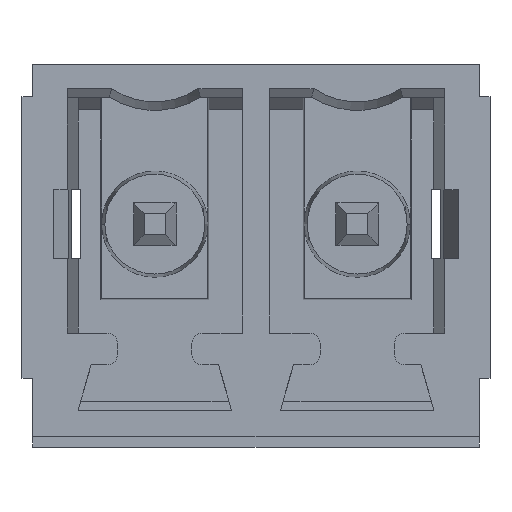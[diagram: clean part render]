
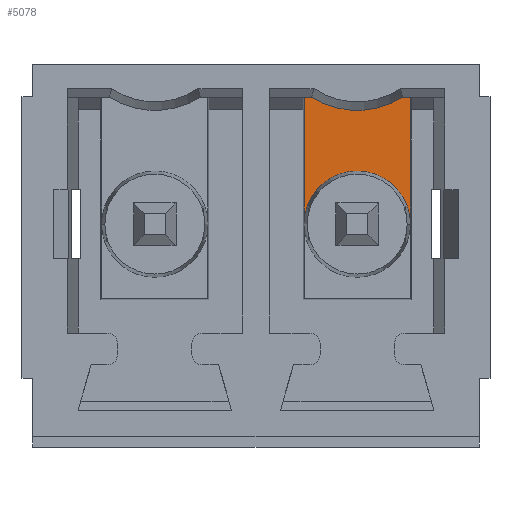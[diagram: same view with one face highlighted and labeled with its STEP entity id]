
A CAD part, front view. The second image highlights one B-rep face of the part: STEP entity #5078.
In plain terms, the highlighted planar face has unit normal (0, -1, 0).
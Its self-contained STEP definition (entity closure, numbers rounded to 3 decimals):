
#2628 = PLANE('',#2629);
#2629 = AXIS2_PLACEMENT_3D('',#2630,#2631,#2632);
#2630 = CARTESIAN_POINT('',(6.97,0.,6.39));
#2631 = DIRECTION('',(0.,0.,-1.));
#2632 = DIRECTION('',(1.,0.,0.));
#3371 = PLANE('',#3372);
#3372 = AXIS2_PLACEMENT_3D('',#3373,#3374,#3375);
#3373 = CARTESIAN_POINT('',(5.1,7.45,4.485));
#3374 = DIRECTION('',(-1.,-0.018,0.));
#3375 = DIRECTION('',(0.018,-1.,0.));
#3427 = PLANE('',#3428);
#3428 = AXIS2_PLACEMENT_3D('',#3429,#3430,#3431);
#3429 = CARTESIAN_POINT('',(7.12,7.45,4.485));
#3430 = DIRECTION('',(1.,-0.018,0.));
#3431 = DIRECTION('',(-0.018,-1.,0.));
#4870 = CONICAL_SURFACE('',#4871,0.97,0.05);
#4871 = AXIS2_PLACEMENT_3D('',#4872,#4873,#4874);
#4872 = CARTESIAN_POINT('',(6.11,6.3,4.));
#4873 = DIRECTION('',(0.,1.,0.));
#4874 = DIRECTION('',(0.,0.,-1.));
#4965 = VERTEX_POINT('',#4966);
#4966 = CARTESIAN_POINT('',(7.11,6.9,4.));
#4987 = EDGE_CURVE('',#4965,#4988,#4990,.T.);
#4988 = VERTEX_POINT('',#4989);
#4989 = CARTESIAN_POINT('',(5.11,6.9,4.));
#4990 = SURFACE_CURVE('',#4991,(#4996,#5003),.PCURVE_S1.);
#4991 = CIRCLE('',#4992,1.);
#4992 = AXIS2_PLACEMENT_3D('',#4993,#4994,#4995);
#4993 = CARTESIAN_POINT('',(6.11,6.9,4.));
#4994 = DIRECTION('',(0.,-1.,0.));
#4995 = DIRECTION('',(1.,0.,0.));
#4996 = PCURVE('',#4870,#4997);
#4997 = DEFINITIONAL_REPRESENTATION('',(#4998),#5002);
#4998 = LINE('',#4999,#5000);
#4999 = CARTESIAN_POINT('',(4.712,0.6));
#5000 = VECTOR('',#5001,1.);
#5001 = DIRECTION('',(-1.,0.));
#5002 = ( GEOMETRIC_REPRESENTATION_CONTEXT(2) 
PARAMETRIC_REPRESENTATION_CONTEXT() REPRESENTATION_CONTEXT('2D SPACE',''
  ) );
#5003 = PCURVE('',#5004,#5009);
#5004 = PLANE('',#5005);
#5005 = AXIS2_PLACEMENT_3D('',#5006,#5007,#5008);
#5006 = CARTESIAN_POINT('',(6.11,6.9,0.));
#5007 = DIRECTION('',(0.,1.,0.));
#5008 = DIRECTION('',(1.,0.,0.));
#5009 = DEFINITIONAL_REPRESENTATION('',(#5010),#5018);
#5010 = ( BOUNDED_CURVE() B_SPLINE_CURVE(2,(#5011,#5012,#5013,#5014,
#5015,#5016,#5017),.UNSPECIFIED.,.T.,.F.) B_SPLINE_CURVE_WITH_KNOTS((1,2
    ,2,2,2,1),(-2.094,0.,2.094,4.189,
6.283,8.378),.UNSPECIFIED.) CURVE() 
GEOMETRIC_REPRESENTATION_ITEM() RATIONAL_B_SPLINE_CURVE((1.,0.5,1.,0.5,
1.,0.5,1.)) REPRESENTATION_ITEM('') );
#5011 = CARTESIAN_POINT('',(1.,-4.));
#5012 = CARTESIAN_POINT('',(1.,-5.732));
#5013 = CARTESIAN_POINT('',(-0.5,-4.866));
#5014 = CARTESIAN_POINT('',(-2.,-4.));
#5015 = CARTESIAN_POINT('',(-0.5,-3.134));
#5016 = CARTESIAN_POINT('',(1.,-2.268));
#5017 = CARTESIAN_POINT('',(1.,-4.));
#5018 = ( GEOMETRIC_REPRESENTATION_CONTEXT(2) 
PARAMETRIC_REPRESENTATION_CONTEXT() REPRESENTATION_CONTEXT('2D SPACE',''
  ) );
#5078 = ADVANCED_FACE('',(#5079),#5004,.F.);
#5079 = FACE_BOUND('',#5080,.F.);
#5080 = EDGE_LOOP('',(#5081,#5104,#5105,#5128,#5156,#5185));
#5081 = ORIENTED_EDGE('',*,*,#5082,.T.);
#5082 = EDGE_CURVE('',#5083,#4965,#5085,.T.);
#5083 = VERTEX_POINT('',#5084);
#5084 = CARTESIAN_POINT('',(7.11,6.9,6.39));
#5085 = SURFACE_CURVE('',#5086,(#5090,#5097),.PCURVE_S1.);
#5086 = LINE('',#5087,#5088);
#5087 = CARTESIAN_POINT('',(7.11,6.9,6.39));
#5088 = VECTOR('',#5089,1.);
#5089 = DIRECTION('',(0.,0.,-1.));
#5090 = PCURVE('',#5004,#5091);
#5091 = DEFINITIONAL_REPRESENTATION('',(#5092),#5096);
#5092 = LINE('',#5093,#5094);
#5093 = CARTESIAN_POINT('',(1.,-6.39));
#5094 = VECTOR('',#5095,1.);
#5095 = DIRECTION('',(0.,1.));
#5096 = ( GEOMETRIC_REPRESENTATION_CONTEXT(2) 
PARAMETRIC_REPRESENTATION_CONTEXT() REPRESENTATION_CONTEXT('2D SPACE',''
  ) );
#5097 = PCURVE('',#3427,#5098);
#5098 = DEFINITIONAL_REPRESENTATION('',(#5099),#5103);
#5099 = LINE('',#5100,#5101);
#5100 = CARTESIAN_POINT('',(0.55,-1.905));
#5101 = VECTOR('',#5102,1.);
#5102 = DIRECTION('',(0.,1.));
#5103 = ( GEOMETRIC_REPRESENTATION_CONTEXT(2) 
PARAMETRIC_REPRESENTATION_CONTEXT() REPRESENTATION_CONTEXT('2D SPACE',''
  ) );
#5104 = ORIENTED_EDGE('',*,*,#4987,.T.);
#5105 = ORIENTED_EDGE('',*,*,#5106,.T.);
#5106 = EDGE_CURVE('',#4988,#5107,#5109,.T.);
#5107 = VERTEX_POINT('',#5108);
#5108 = CARTESIAN_POINT('',(5.11,6.9,6.39));
#5109 = SURFACE_CURVE('',#5110,(#5114,#5121),.PCURVE_S1.);
#5110 = LINE('',#5111,#5112);
#5111 = CARTESIAN_POINT('',(5.11,6.9,4.
    ));
#5112 = VECTOR('',#5113,1.);
#5113 = DIRECTION('',(0.,0.,1.));
#5114 = PCURVE('',#5004,#5115);
#5115 = DEFINITIONAL_REPRESENTATION('',(#5116),#5120);
#5116 = LINE('',#5117,#5118);
#5117 = CARTESIAN_POINT('',(-1.,-4.));
#5118 = VECTOR('',#5119,1.);
#5119 = DIRECTION('',(0.,-1.));
#5120 = ( GEOMETRIC_REPRESENTATION_CONTEXT(2) 
PARAMETRIC_REPRESENTATION_CONTEXT() REPRESENTATION_CONTEXT('2D SPACE',''
  ) );
#5121 = PCURVE('',#3371,#5122);
#5122 = DEFINITIONAL_REPRESENTATION('',(#5123),#5127);
#5123 = LINE('',#5124,#5125);
#5124 = CARTESIAN_POINT('',(0.55,-0.485));
#5125 = VECTOR('',#5126,1.);
#5126 = DIRECTION('',(0.,1.));
#5127 = ( GEOMETRIC_REPRESENTATION_CONTEXT(2) 
PARAMETRIC_REPRESENTATION_CONTEXT() REPRESENTATION_CONTEXT('2D SPACE',''
  ) );
#5128 = ORIENTED_EDGE('',*,*,#5129,.F.);
#5129 = EDGE_CURVE('',#5130,#5107,#5132,.T.);
#5130 = VERTEX_POINT('',#5131);
#5131 = CARTESIAN_POINT('',(5.25,6.9,6.39));
#5132 = SURFACE_CURVE('',#5133,(#5137,#5144),.PCURVE_S1.);
#5133 = LINE('',#5134,#5135);
#5134 = CARTESIAN_POINT('',(5.25,6.9,6.39));
#5135 = VECTOR('',#5136,1.);
#5136 = DIRECTION('',(-1.,0.,0.));
#5137 = PCURVE('',#5004,#5138);
#5138 = DEFINITIONAL_REPRESENTATION('',(#5139),#5143);
#5139 = LINE('',#5140,#5141);
#5140 = CARTESIAN_POINT('',(-0.86,-6.39));
#5141 = VECTOR('',#5142,1.);
#5142 = DIRECTION('',(-1.,0.));
#5143 = ( GEOMETRIC_REPRESENTATION_CONTEXT(2) 
PARAMETRIC_REPRESENTATION_CONTEXT() REPRESENTATION_CONTEXT('2D SPACE',''
  ) );
#5144 = PCURVE('',#5145,#5150);
#5145 = PLANE('',#5146);
#5146 = AXIS2_PLACEMENT_3D('',#5147,#5148,#5149);
#5147 = CARTESIAN_POINT('',(4.46,0.,6.39));
#5148 = DIRECTION('',(0.,0.,-1.));
#5149 = DIRECTION('',(1.,0.,0.));
#5150 = DEFINITIONAL_REPRESENTATION('',(#5151),#5155);
#5151 = LINE('',#5152,#5153);
#5152 = CARTESIAN_POINT('',(0.79,-6.9));
#5153 = VECTOR('',#5154,1.);
#5154 = DIRECTION('',(-1.,0.));
#5155 = ( GEOMETRIC_REPRESENTATION_CONTEXT(2) 
PARAMETRIC_REPRESENTATION_CONTEXT() REPRESENTATION_CONTEXT('2D SPACE',''
  ) );
#5156 = ORIENTED_EDGE('',*,*,#5157,.F.);
#5157 = EDGE_CURVE('',#5158,#5130,#5160,.T.);
#5158 = VERTEX_POINT('',#5159);
#5159 = CARTESIAN_POINT('',(6.97,6.9,6.39));
#5160 = SURFACE_CURVE('',#5161,(#5166,#5173),.PCURVE_S1.);
#5161 = CIRCLE('',#5162,1.61);
#5162 = AXIS2_PLACEMENT_3D('',#5163,#5164,#5165);
#5163 = CARTESIAN_POINT('',(6.11,6.9,7.751));
#5164 = DIRECTION('',(0.,1.,0.));
#5165 = DIRECTION('',(0.534,0.,-0.845));
#5166 = PCURVE('',#5004,#5167);
#5167 = DEFINITIONAL_REPRESENTATION('',(#5168),#5172);
#5168 = CIRCLE('',#5169,1.61);
#5169 = AXIS2_PLACEMENT_2D('',#5170,#5171);
#5170 = CARTESIAN_POINT('',(0.,-7.751));
#5171 = DIRECTION('',(0.534,0.845));
#5172 = ( GEOMETRIC_REPRESENTATION_CONTEXT(2) 
PARAMETRIC_REPRESENTATION_CONTEXT() REPRESENTATION_CONTEXT('2D SPACE',''
  ) );
#5173 = PCURVE('',#5174,#5179);
#5174 = CYLINDRICAL_SURFACE('',#5175,1.61);
#5175 = AXIS2_PLACEMENT_3D('',#5176,#5177,#5178);
#5176 = CARTESIAN_POINT('',(6.11,0.,7.751));
#5177 = DIRECTION('',(0.,1.,0.));
#5178 = DIRECTION('',(1.,0.,0.));
#5179 = DEFINITIONAL_REPRESENTATION('',(#5180),#5184);
#5180 = LINE('',#5181,#5182);
#5181 = CARTESIAN_POINT('',(1.007,6.9));
#5182 = VECTOR('',#5183,1.);
#5183 = DIRECTION('',(1.,0.));
#5184 = ( GEOMETRIC_REPRESENTATION_CONTEXT(2) 
PARAMETRIC_REPRESENTATION_CONTEXT() REPRESENTATION_CONTEXT('2D SPACE',''
  ) );
#5185 = ORIENTED_EDGE('',*,*,#5186,.T.);
#5186 = EDGE_CURVE('',#5158,#5083,#5187,.T.);
#5187 = SURFACE_CURVE('',#5188,(#5192,#5199),.PCURVE_S1.);
#5188 = LINE('',#5189,#5190);
#5189 = CARTESIAN_POINT('',(6.97,6.9,6.39));
#5190 = VECTOR('',#5191,1.);
#5191 = DIRECTION('',(1.,0.,0.));
#5192 = PCURVE('',#5004,#5193);
#5193 = DEFINITIONAL_REPRESENTATION('',(#5194),#5198);
#5194 = LINE('',#5195,#5196);
#5195 = CARTESIAN_POINT('',(0.86,-6.39));
#5196 = VECTOR('',#5197,1.);
#5197 = DIRECTION('',(1.,0.));
#5198 = ( GEOMETRIC_REPRESENTATION_CONTEXT(2) 
PARAMETRIC_REPRESENTATION_CONTEXT() REPRESENTATION_CONTEXT('2D SPACE',''
  ) );
#5199 = PCURVE('',#2628,#5200);
#5200 = DEFINITIONAL_REPRESENTATION('',(#5201),#5205);
#5201 = LINE('',#5202,#5203);
#5202 = CARTESIAN_POINT('',(0.,-6.9));
#5203 = VECTOR('',#5204,1.);
#5204 = DIRECTION('',(1.,0.));
#5205 = ( GEOMETRIC_REPRESENTATION_CONTEXT(2) 
PARAMETRIC_REPRESENTATION_CONTEXT() REPRESENTATION_CONTEXT('2D SPACE',''
  ) );
